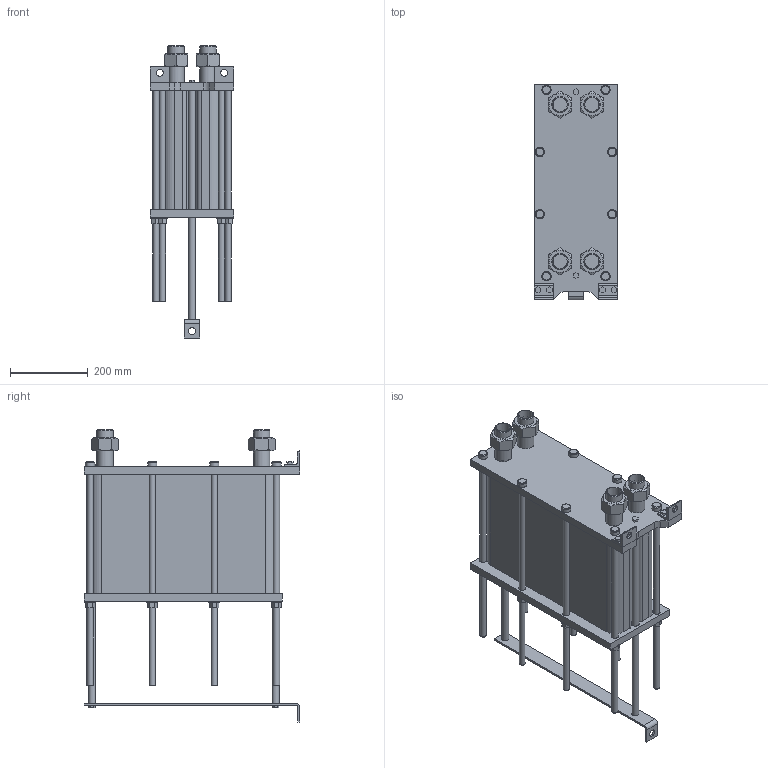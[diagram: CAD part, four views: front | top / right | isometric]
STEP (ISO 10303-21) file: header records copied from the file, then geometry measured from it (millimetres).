
FILE_DESCRIPTION(/* description */ (''),/* implementation_level */ '2;1');
FILE_NAME(/* name */ 'C:\Users\zhuro\Desktop\ENCO\TO\ЭН-004\ЭН-0,5-004-99-1.stp',/* time_stamp */ '2022-06-06T10:52:15+03:00',/* author */ ('zhuro'),/* organization */ (''),/* preprocessor_version */ 'ST-DEVELOPER v18.1',/* originating_system */ 'Autodesk Inventor 2022',/* authorisation */ '');
FILE_SCHEMA (('AUTOMOTIVE_DESIGN { 1 0 10303 214 3 1 1 }'));
Length unit declared in the file: millimetre
Products named in the file (1): ЭН-0,5-004-99-1
Bounding box: 216 x 555 x 752.2 mm (x, y, z)
Volume: 28767348.3 mm3; surface area: 1623199.5 mm2
Topology: 40 solids, 40 shells, 403 faces, 865 edges, 574 vertices
Faces by surface type: plane 272, cylinder 103, cone 28
Full cylindrical faces by diameter (mm): 10 x4, 16 x16, 18 x29, 20 x2, 24 x8, 28 x8, 36.3 x5, 42.3 x9
Entity records: 11137 total; most frequent: CARTESIAN_POINT 1939, DIRECTION 1879, ORIENTED_EDGE 1730, EDGE_CURVE 865, AXIS2_PLACEMENT_3D 658, VERTEX_POINT 574, LINE 563, VECTOR 563
